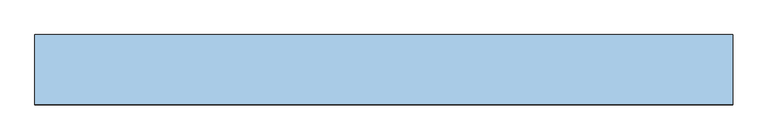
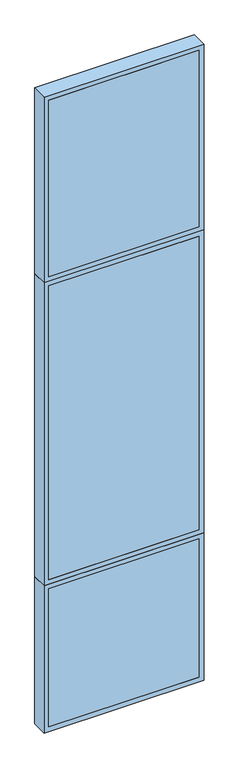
"""IFC4 building model written with IfcOpenShell, lengths in millimetres: window geometry, TRP_CP_ARC_FI_V1 : AL_P01_100_420."""

from ifc_helpers import new_model, si_unit, frame, origin, place, context, project, spatial, polyline, outline, extrude, source, transform, mapped, element, save


def window_a7bb458b(model_context):
    return source(origin(), model_context, "Body", "SweptSolid", [
        extrude(outline(polyline([(470.0, -50.0), (-470.0, -50.0), (-470.0, -30.0), (470.0, -30.0), (470.0, -50.0)])), frame((0.0, 0.0, 30.0), z_axis=(0.0, 0.0, 1.0), x_axis=(1.0, 0.0, 0.0)), (0.0, 0.0, 1.0), 913.0),
        extrude(outline(polyline([(973.0, 500.0), (973.0, -500.0), (0.0, -500.0), (0.0, 500.0), (973.0, 500.0)]), holes=[polyline([(30.0, 470.0), (30.0, -470.0), (943.0, -470.0), (943.0, 470.0), (30.0, 470.0)])]), frame((0.0, -50.0, 0.0), z_axis=(0.0, 1.0, 0.0), x_axis=(0.0, 0.0, 1.0)), (0.0, 0.0, 1.0), 100.0),
        extrude(outline(polyline([(2973.0, 500.0), (2973.0, -500.0), (973.0, -500.0), (973.0, 500.0), (2973.0, 500.0)]), holes=[polyline([(1003.0, 470.0), (1003.0, -470.0), (2943.0, -470.0), (2943.0, 470.0), (1003.0, 470.0)])]), frame((0.0, -50.0, 0.0), z_axis=(0.0, 1.0, 0.0), x_axis=(0.0, 0.0, 1.0)), (0.0, 0.0, 1.0), 100.0),
        extrude(outline(polyline([(470.0, -50.0), (-470.0, -50.0), (-470.0, -30.0), (470.0, -30.0), (470.0, -50.0)])), frame((0.0, 0.0, 1003.0), z_axis=(0.0, 0.0, 1.0), x_axis=(1.0, 0.0, 0.0)), (0.0, 0.0, 1.0), 1940.0),
        extrude(outline(polyline([(4200.0, 500.0), (4200.0, -500.0), (2973.0, -500.0), (2973.0, 500.0), (4200.0, 500.0)]), holes=[polyline([(3003.0, 470.0), (3003.0, -470.0), (4170.0, -470.0), (4170.0, 470.0), (3003.0, 470.0)])]), frame((0.0, -50.0, 0.0), z_axis=(0.0, 1.0, 0.0), x_axis=(0.0, 0.0, 1.0)), (0.0, 0.0, 1.0), 100.0),
        extrude(outline(polyline([(470.0, -50.0), (-470.0, -50.0), (-470.0, -30.0), (470.0, -30.0), (470.0, -50.0)])), frame((0.0, 0.0, 3003.0), z_axis=(0.0, 0.0, 1.0), x_axis=(1.0, 0.0, 0.0)), (0.0, 0.0, 1.0), 1167.0),
    ])


if __name__ == "__main__":
    model = new_model("IFC4")
    model_context = context("Model", 3, world=origin())
    ifc_project = project(units=[si_unit("LENGTHUNIT", "METRE", prefix="MILLI")], contexts=[model_context])
    site = spatial("IfcSite", under=ifc_project)
    building = spatial("IfcBuilding", under=site)
    placement = place(None, origin())
    window_shape = window_a7bb458b(model_context)
    element("IfcWindow", 1, ObjectType="TRP_CP_ARC_FI_V1 : AL_P01_100_420", at=placement, inside=building, context=model_context, shape_type="MappedRepresentation", body=[
        mapped(window_shape, transform((0.0, 0.0, 0.0), x_axis=(1.0, 0.0, 0.0), y_axis=(0.0, 1.0, 0.0), z_axis=(0.0, 0.0, 1.0))),
    ])
    save(model, "model.ifc")
